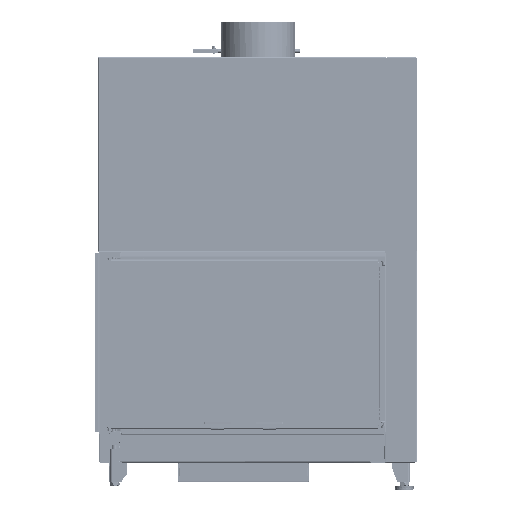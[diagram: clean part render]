
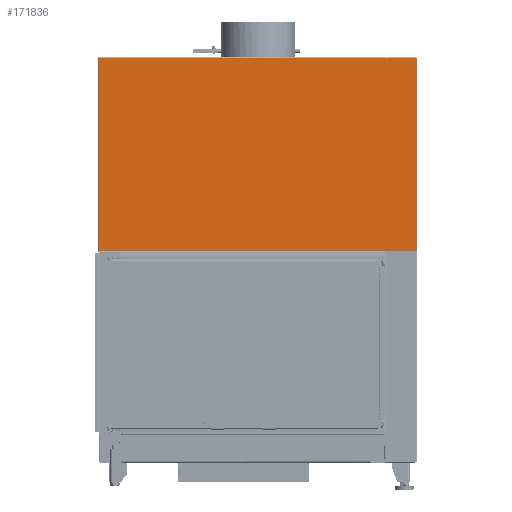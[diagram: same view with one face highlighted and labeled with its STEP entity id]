
A CAD part, front view. The second image highlights one B-rep face of the part: STEP entity #171836.
In plain terms, the highlighted planar face has unit normal (0, -1, 0).
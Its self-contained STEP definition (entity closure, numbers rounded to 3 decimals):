
#6755=LINE('',#255593,#22991);
#6759=LINE('',#255602,#22995);
#6761=LINE('',#255606,#22997);
#10924=LINE('',#272007,#27160);
#10932=LINE('',#272024,#27168);
#10933=LINE('',#272027,#27169);
#10934=LINE('',#272029,#27170);
#10935=LINE('',#272030,#27171);
#22991=VECTOR('',#201376,10.);
#22995=VECTOR('',#201386,10.);
#22997=VECTOR('',#201390,10.);
#27160=VECTOR('',#214185,10.);
#27168=VECTOR('',#214197,10.);
#27169=VECTOR('',#214200,10.);
#27170=VECTOR('',#214201,10.);
#27171=VECTOR('',#214202,10.);
#39009=PLANE('',#184434);
#46448=FACE_OUTER_BOUND('',#55974,.T.);
#55974=EDGE_LOOP('',(#130238,#130239,#130240,#130241,#130242,#130243,#130244,
#130245,#130246,#130247,#130248));
#62817=CIRCLE('',#180114,0.1);
#62819=CIRCLE('',#180119,3.);
#64741=CIRCLE('',#184435,3.);
#72222=VERTEX_POINT('',#255590);
#72223=VERTEX_POINT('',#255592);
#72224=VERTEX_POINT('',#255596);
#72225=VERTEX_POINT('',#255600);
#72226=VERTEX_POINT('',#255604);
#72228=VERTEX_POINT('',#255610);
#76317=VERTEX_POINT('',#272004);
#76318=VERTEX_POINT('',#272006);
#76325=VERTEX_POINT('',#272023);
#76326=VERTEX_POINT('',#272026);
#76327=VERTEX_POINT('',#272028);
#88884=EDGE_CURVE('',#72222,#72223,#6755,.T.);
#88887=EDGE_CURVE('',#72224,#72222,#62817,.T.);
#88889=EDGE_CURVE('',#72225,#72224,#6759,.T.);
#88891=EDGE_CURVE('',#72226,#72225,#6761,.T.);
#88894=EDGE_CURVE('',#72226,#72228,#62819,.T.);
#95422=EDGE_CURVE('',#76317,#76318,#10924,.T.);
#95430=EDGE_CURVE('',#76325,#72228,#10932,.T.);
#95431=EDGE_CURVE('',#76325,#76318,#64741,.T.);
#95432=EDGE_CURVE('',#76326,#76317,#10933,.T.);
#95433=EDGE_CURVE('',#76327,#76326,#10934,.T.);
#95434=EDGE_CURVE('',#72223,#76327,#10935,.T.);
#130238=ORIENTED_EDGE('',*,*,#88894,.T.);
#130239=ORIENTED_EDGE('',*,*,#95430,.F.);
#130240=ORIENTED_EDGE('',*,*,#95431,.T.);
#130241=ORIENTED_EDGE('',*,*,#95422,.F.);
#130242=ORIENTED_EDGE('',*,*,#95432,.F.);
#130243=ORIENTED_EDGE('',*,*,#95433,.F.);
#130244=ORIENTED_EDGE('',*,*,#95434,.F.);
#130245=ORIENTED_EDGE('',*,*,#88884,.F.);
#130246=ORIENTED_EDGE('',*,*,#88887,.F.);
#130247=ORIENTED_EDGE('',*,*,#88889,.F.);
#130248=ORIENTED_EDGE('',*,*,#88891,.F.);
#171836=ADVANCED_FACE('',(#46448),#39009,.F.);
#180114=AXIS2_PLACEMENT_3D('',#255598,#201381,#201382);
#180119=AXIS2_PLACEMENT_3D('',#255612,#201396,#201397);
#184434=AXIS2_PLACEMENT_3D('',#272022,#214195,#214196);
#184435=AXIS2_PLACEMENT_3D('',#272025,#214198,#214199);
#201376=DIRECTION('',(0.,0.,-1.));
#201381=DIRECTION('center_axis',(0.,-1.,
0.));
#201382=DIRECTION('ref_axis',(-1.,0.,0.));
#201386=DIRECTION('',(0.,0.,1.));
#201390=DIRECTION('',(-1.,0.,0.));
#201396=DIRECTION('center_axis',(0.,-1.,
0.));
#201397=DIRECTION('ref_axis',(0.707,0.,-0.707));
#214185=DIRECTION('',(1.,0.,0.));
#214195=DIRECTION('center_axis',(0.,1.,
0.));
#214196=DIRECTION('ref_axis',(-1.,0.,0.));
#214197=DIRECTION('',(0.,0.,-1.));
#214198=DIRECTION('center_axis',(0.,-1.,
0.));
#214199=DIRECTION('ref_axis',(0.707,0.,0.707));
#214200=DIRECTION('',(1.,0.,0.));
#214201=DIRECTION('',(0.,0.,1.));
#214202=DIRECTION('',(-1.,0.,0.));
#255590=CARTESIAN_POINT('',(-87.4,-59.998,582.359));
#255592=CARTESIAN_POINT('',(-87.4,-59.998,582.259));
#255593=CARTESIAN_POINT('',(-87.4,-59.994,715.946));
#255596=CARTESIAN_POINT('',(-87.2,-59.998,582.359));
#255598=CARTESIAN_POINT('Origin',(-87.3,-59.998,582.359));
#255600=CARTESIAN_POINT('',(-87.2,-59.998,582.259));
#255602=CARTESIAN_POINT('',(-87.2,-59.994,715.996));
#255604=CARTESIAN_POINT('',(-3.,-59.998,582.259));
#255606=CARTESIAN_POINT('',(0.,-59.998,582.259));
#255610=CARTESIAN_POINT('',(0.,-59.998,585.259));
#255612=CARTESIAN_POINT('Origin',(-3.,-59.998,585.259));
#272004=CARTESIAN_POINT('',(-84.15,-59.983,1114.259));
#272006=CARTESIAN_POINT('',(-3.,-59.983,1114.259));
#272007=CARTESIAN_POINT('',(-84.15,-59.983,1114.259));
#272022=CARTESIAN_POINT('Origin',(-480.775,-59.991,849.634));
#272023=CARTESIAN_POINT('',(0.,-59.983,1111.259));
#272024=CARTESIAN_POINT('',(0.,-59.983,1114.259));
#272025=CARTESIAN_POINT('Origin',(-3.,-59.983,1111.259));
#272026=CARTESIAN_POINT('',(-874.65,-59.983,1114.259));
#272027=CARTESIAN_POINT('',(-679.088,-59.983,1114.259));
#272028=CARTESIAN_POINT('',(-874.65,-59.998,582.259));
#272029=CARTESIAN_POINT('',(-874.65,-59.994,715.946));
#272030=CARTESIAN_POINT('',(0.,-59.998,582.259));
